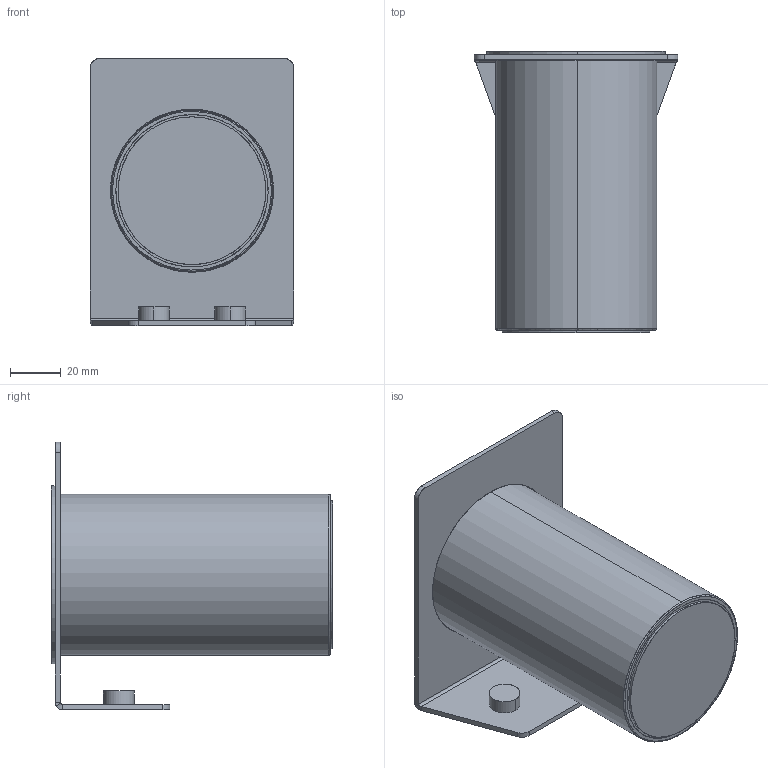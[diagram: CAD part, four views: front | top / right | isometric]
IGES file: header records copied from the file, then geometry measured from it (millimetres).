
Start section: SolidWorks IGES file using analytic representation for surfaces
Global section: file name: G:\Projects\New project\For Marketing\IGS\IGS\2015-12-11\367002002VW.IGS; native system: SolidWorks 2010; preprocessor: SolidWorks 2010; author: linda; date: 151203.152015; units: millimetre
Bounding box: 80 x 110.5 x 105 mm (x, y, z)
Surface area: 101975 mm2 (no closed solid volume)
Topology: 0 solids, 0 shells, 62 faces, 1032 edges, 1032 vertices
Faces by surface type: revolution 34, bspline 28
